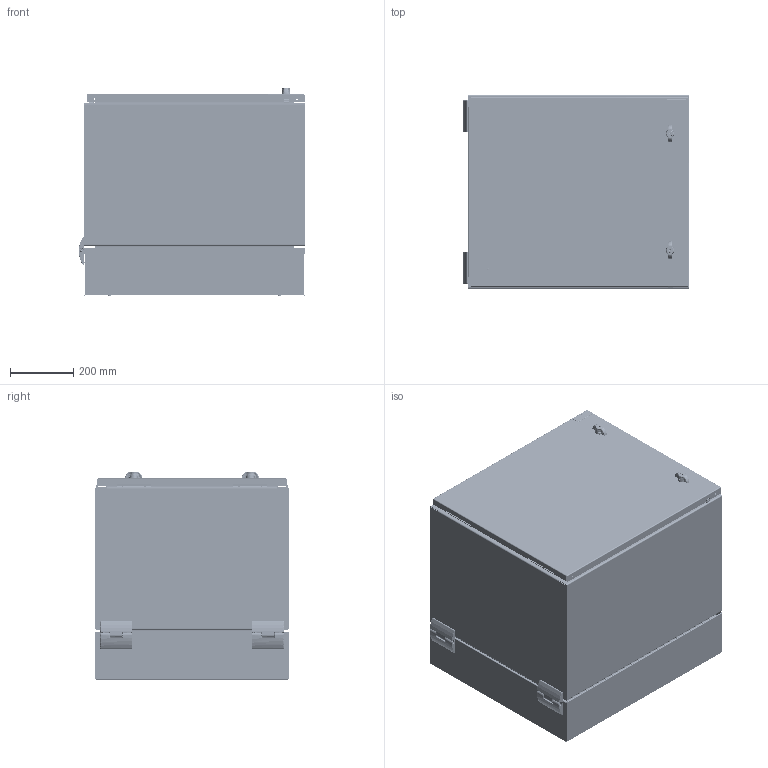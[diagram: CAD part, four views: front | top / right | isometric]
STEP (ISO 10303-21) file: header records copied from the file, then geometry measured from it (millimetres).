
FILE_DESCRIPTION (( 'STEP AP203' ), '1' );
FILE_NAME ('pths242824g4.STEP', '2011-12-02T13:16:43', ( 'Hoffman User' ), ( 'Hoffman Enclosures' ), 'SwSTEP 2.0', 'SolidWorks 2010', '' );
FILE_SCHEMA (( 'CONFIG_CONTROL_DESIGN' ));
Products named in the file (47): pths242824g4; 89080284; 89080283; 89080282; 89060191; 89071699_Installed Config; 89080281; 89060609; 89060608; 89080280; 99401225; 89080292_89080287; 89080293_89060268; 89080294_89060269; 60127101_60127101; 60100041_60100041; 87931527_87931527; 87931368_SLEEVE; 89080289; 89071927_FOR 16GA; 99407418; 87928600; 64138001; 89066975; 89066980; 89066979_WITH STAKE; 89066976; 89066978; 89066977; 87540581; 87790199; 60127214_601272214; 87790201_87790201; 60127135_Installed postion; 60127199_60127199; 56906712_56906712; 89070550; 89070549; 89056327; 89060213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
Assembly tree (100 placements, depth 5):
  pths242824g4
    60127214_601272214  x2
      60127135_Installed postion
      87790201_87790201
      56906712_56906712
      60127199_60127199
    87927989_9U
    89066975  x2
    89070550  x2
      89056327
      89070549
    89060213  x2
    89066980  x2
      89066976
      89066979_WITH STAKE
      87540581
    87932150_body cbl mgr horz 4u
    89060212  x2
    89066978  x2
      87540581
      89066977
    89071543_89071543  x2
    89080284
      60100041_60100041
        87931368_SLEEVE
        87931527_87931527
      89080282  x2
      89080289
      89060191  x2
      89071699_Installed Config  x4
      89080283
    89072121_87931339  x2
    89080281
      99401225  x24
      89060609
      89080280  x2
      89060608
      60100041_60100041  x2
        87931368_SLEEVE
        87931527_87931527
    89060214  x2
    89060606_89060606  x2
    89080292_89080287
      64138001  x2
      89080293_89060268
        60100041_60100041
          87931368_SLEEVE
          87931527_87931527
        89080289
        60127101_60127101  x2
        89080294_89060269
      87928600
      99407418  x2
      89071927_FOR 16GA  x2
    87790199  x2
Bounding box: 716 x 612 x 659.17 mm (x, y, z)
Volume: 6516011.6 mm3; surface area: 6961391.4 mm2
Topology: 103 solids, 123 shells, 10164 faces, 25486 edges, 15546 vertices
Faces by surface type: plane 3859, cylinder 3020, bspline 1990, torus 602, cone 511, sphere 182
Entity records: 469842 total; most frequent: CARTESIAN_POINT 314524, ORIENTED_EDGE 34210, DIRECTION 26242, EDGE_CURVE 17105, VERTEX_POINT 10570, AXIS2_PLACEMENT_3D 9322, LINE 7598, VECTOR 7598
